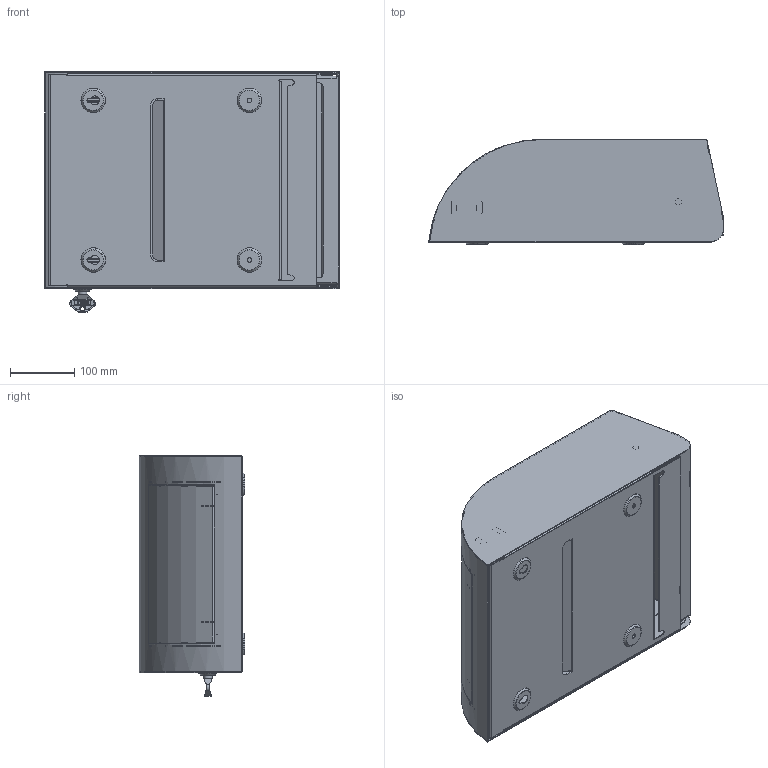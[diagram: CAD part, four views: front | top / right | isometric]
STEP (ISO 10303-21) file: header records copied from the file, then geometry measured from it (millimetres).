
FILE_DESCRIPTION(/* description */ ('Venstre gavl til frontskjold'),/* implementation_level */ '2;1');
FILE_NAME(/* name */ 'X:\Standardvarer\294 Dan Dryer Design Affaldsbeholder 12L\Tegninger\Public 3D files\294 DAN DRYER DESIGN Mini waste bin.stp',/* time_stamp */ '2017-02-09T11:42:12+01:00',/* author */ ('Dan Dryer'),/* organization */ (''),/* preprocessor_version */ 'ST-DEVELOPER v15.6',/* originating_system */ 'Autodesk Inventor 2015',/* authorisation */ '');
FILE_SCHEMA (('AUTOMOTIVE_DESIGN { 1 0 10303 214 3 1 1 }'));
Length unit declared in the file: millimetre
Products named in the file (24): 294-11; 294-13; 294-12; 294-14; 294-16; DD-291107-50; 294-17; Viking; 294-10; 294-20; 294-42; 294-43; 294-45; 294-40; 28200-1; 28201-1; 28201-3; 28202; 28200-2; 28200; 28201-2; 28201; 294 simplified
Assembly tree (28 placements, depth 3):
  294 simplified
    294-10
      294-11
      294-13
      294-12
      294-14  x2
      294-16  x2
      DD-291107-50
      294-17  x2
      Viking
    294-20
      294-20
    294-40
      294-42
      294-43  x2
      294-45  x2
    28200
      28200-2
      28200-1
    28201
      28201-2
      28201-1
      28201-3
    28202
Bounding box: 459.7 x 164.18 x 374.8 mm (x, y, z)
Volume: 863583.1 mm3; surface area: 1163189.7 mm2
Topology: 23 solids, 25 shells, 1008 faces, 2647 edges, 1721 vertices
Faces by surface type: plane 608, cylinder 330, torus 24, cone 22, bspline 20, sphere 4
Full cylindrical faces by diameter (mm): 5 x2, 5.5 x2, 6 x4, 6.2 x4, 7 x2, 8.2 x4, 8.3 x1, 9.9 x1, 10 x3, 10.1 x2, 10.2 x1, 12.8 x1, 13.5 x2, 15.2 x1, 16 x1, 16.1 x1, 19.8 x1, 20 x1, 22 x1, 28 x1
Entity records: 31912 total; most frequent: CARTESIAN_POINT 7509, DIRECTION 5015, ORIENTED_EDGE 4843, EDGE_CURVE 2424, AXIS2_PLACEMENT_3D 1694, LINE 1627, VECTOR 1627, VERTEX_POINT 1609
